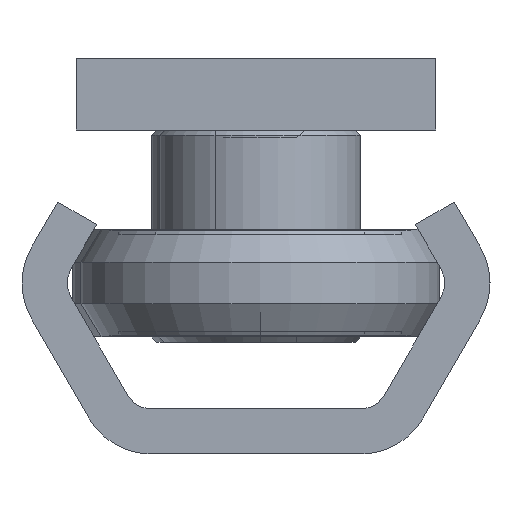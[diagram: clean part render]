
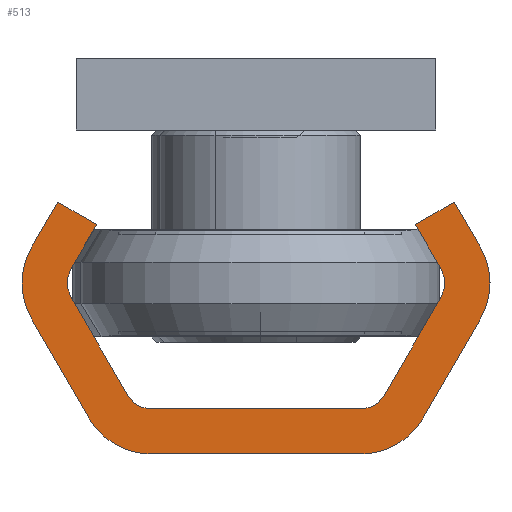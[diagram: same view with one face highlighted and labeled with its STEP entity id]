
A CAD part, left-side view. The second image highlights one B-rep face of the part: STEP entity #513.
In plain terms, the highlighted planar face has unit normal (-1, 0, 0).
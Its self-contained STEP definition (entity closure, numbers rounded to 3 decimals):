
#513 = ADVANCED_FACE( '', ( #1094 ), #1095, .F. );
#1094 = FACE_OUTER_BOUND( '', #1848, .T. );
#1095 = PLANE( '', #1849 );
#1848 = EDGE_LOOP( '', ( #3004, #3005, #3006, #3007, #3008, #3009, #3010, #3011, #3012, #3013, #3014, #3015, #3016, #3017, #3018, #3019, #3020, #3021, #3022, #3023 ) );
#1849 = AXIS2_PLACEMENT_3D( '', #3024, #3025, #3026 );
#3004 = ORIENTED_EDGE( '', *, *, #3739, .F. );
#3005 = ORIENTED_EDGE( '', *, *, #3685, .F. );
#3006 = ORIENTED_EDGE( '', *, *, #3641, .F. );
#3007 = ORIENTED_EDGE( '', *, *, #3865, .F. );
#3008 = ORIENTED_EDGE( '', *, *, #3610, .F. );
#3009 = ORIENTED_EDGE( '', *, *, #3605, .F. );
#3010 = ORIENTED_EDGE( '', *, *, #3934, .F. );
#3011 = ORIENTED_EDGE( '', *, *, #3935, .T. );
#3012 = ORIENTED_EDGE( '', *, *, #3936, .F. );
#3013 = ORIENTED_EDGE( '', *, *, #3833, .T. );
#3014 = ORIENTED_EDGE( '', *, *, #3937, .F. );
#3015 = ORIENTED_EDGE( '', *, *, #3791, .T. );
#3016 = ORIENTED_EDGE( '', *, *, #3938, .F. );
#3017 = ORIENTED_EDGE( '', *, *, #3819, .T. );
#3018 = ORIENTED_EDGE( '', *, *, #3883, .F. );
#3019 = ORIENTED_EDGE( '', *, *, #3939, .F. );
#3020 = ORIENTED_EDGE( '', *, *, #3940, .F. );
#3021 = ORIENTED_EDGE( '', *, *, #3743, .F. );
#3022 = ORIENTED_EDGE( '', *, *, #3941, .F. );
#3023 = ORIENTED_EDGE( '', *, *, #3908, .F. );
#3024 = CARTESIAN_POINT( '', ( 0., -5.825, -4. ) );
#3025 = DIRECTION( '', ( 1., 0., 0. ) );
#3026 = DIRECTION( '', ( 0., 0., -1. ) );
#3605 = EDGE_CURVE( '', #4099, #4100, #4101, .T. );
#3610 = EDGE_CURVE( '', #4100, #4108, #4109, .T. );
#3641 = EDGE_CURVE( '', #4160, #4161, #4162, .T. );
#3685 = EDGE_CURVE( '', #4161, #4238, #4239, .T. );
#3739 = EDGE_CURVE( '', #4238, #4333, #4334, .T. );
#3743 = EDGE_CURVE( '', #4339, #4340, #4341, .T. );
#3791 = EDGE_CURVE( '', #4413, #4414, #4415, .T. );
#3819 = EDGE_CURVE( '', #4457, #4458, #4459, .T. );
#3833 = EDGE_CURVE( '', #4479, #4480, #4481, .T. );
#3865 = EDGE_CURVE( '', #4108, #4160, #4528, .T. );
#3883 = EDGE_CURVE( '', #4553, #4458, #4554, .T. );
#3908 = EDGE_CURVE( '', #4333, #4590, #4591, .T. );
#3934 = EDGE_CURVE( '', #4624, #4099, #4625, .T. );
#3935 = EDGE_CURVE( '', #4624, #4626, #4627, .T. );
#3936 = EDGE_CURVE( '', #4479, #4626, #4628, .T. );
#3937 = EDGE_CURVE( '', #4413, #4480, #4629, .T. );
#3938 = EDGE_CURVE( '', #4457, #4414, #4630, .T. );
#3939 = EDGE_CURVE( '', #4631, #4553, #4632, .T. );
#3940 = EDGE_CURVE( '', #4340, #4631, #4633, .T. );
#3941 = EDGE_CURVE( '', #4590, #4339, #4634, .T. );
#4099 = VERTEX_POINT( '', #4826 );
#4100 = VERTEX_POINT( '', #4827 );
#4101 = LINE( '', #4828, #4829 );
#4108 = VERTEX_POINT( '', #4839 );
#4109 = LINE( '', #4840, #4841 );
#4160 = VERTEX_POINT( '', #4901 );
#4161 = VERTEX_POINT( '', #4902 );
#4162 = LINE( '', #4903, #4904 );
#4238 = VERTEX_POINT( '', #5001 );
#4239 = CIRCLE( '', #5002, 4. );
#4333 = VERTEX_POINT( '', #5104 );
#4334 = LINE( '', #5105, #5106 );
#4339 = VERTEX_POINT( '', #5113 );
#4340 = VERTEX_POINT( '', #5114 );
#4341 = CIRCLE( '', #5115, 4. );
#4413 = VERTEX_POINT( '', #5201 );
#4414 = VERTEX_POINT( '', #5202 );
#4415 = CIRCLE( '', #5203, 1.5 );
#4457 = VERTEX_POINT( '', #5249 );
#4458 = VERTEX_POINT( '', #5250 );
#4459 = CIRCLE( '', #5251, 1.5 );
#4479 = VERTEX_POINT( '', #5274 );
#4480 = VERTEX_POINT( '', #5275 );
#4481 = CIRCLE( '', #5276, 1.5 );
#4528 = CIRCLE( '', #5331, 4. );
#4553 = VERTEX_POINT( '', #5357 );
#4554 = LINE( '', #5358, #5359 );
#4590 = VERTEX_POINT( '', #5404 );
#4591 = CIRCLE( '', #5405, 4. );
#4624 = VERTEX_POINT( '', #5448 );
#4625 = LINE( '', #5449, #5450 );
#4626 = VERTEX_POINT( '', #5451 );
#4627 = CIRCLE( '', #5452, 1.5 );
#4628 = LINE( '', #5453, #5454 );
#4629 = LINE( '', #5455, #5456 );
#4630 = LINE( '', #5457, #5458 );
#4631 = VERTEX_POINT( '', #5459 );
#4632 = LINE( '', #5460, #5461 );
#4633 = LINE( '', #5462, #5463 );
#4634 = LINE( '', #5464, #5465 );
#4826 = CARTESIAN_POINT( '', ( 0., 8.856, -12.75 ) );
#4827 = CARTESIAN_POINT( '', ( 0., 11.021, -14. ) );
#4828 = CARTESIAN_POINT( '', ( 0., 8.856, -12.75 ) );
#4829 = VECTOR( '', #5683, 1000. );
#4839 = CARTESIAN_POINT( '', ( 0., 12.464, -11.5 ) );
#4840 = CARTESIAN_POINT( '', ( 0., 11.021, -14. ) );
#4841 = VECTOR( '', #5687, 1000. );
#4901 = CARTESIAN_POINT( '', ( 0., 12.464, -7.5 ) );
#4902 = CARTESIAN_POINT( '', ( 0., 9.289, -2. ) );
#4903 = CARTESIAN_POINT( '', ( 0., 12.464, -7.5 ) );
#4904 = VECTOR( '', #5736, 1000. );
#5001 = CARTESIAN_POINT( '', ( 0., 5.825, 0. ) );
#5002 = AXIS2_PLACEMENT_3D( '', #5794, #5795, #5796 );
#5104 = CARTESIAN_POINT( '', ( 0., -5.825, 0. ) );
#5105 = CARTESIAN_POINT( '', ( 0., 5.825, 0. ) );
#5106 = VECTOR( '', #5904, 1000. );
#5113 = CARTESIAN_POINT( '', ( 0., -12.464, -7.5 ) );
#5114 = CARTESIAN_POINT( '', ( 0., -12.464, -11.5 ) );
#5115 = AXIS2_PLACEMENT_3D( '', #5907, #5908, #5909 );
#5201 = CARTESIAN_POINT( '', ( 0., -5.825, -2.5 ) );
#5202 = CARTESIAN_POINT( '', ( 0., -7.124, -3.25 ) );
#5203 = AXIS2_PLACEMENT_3D( '', #5975, #5976, #5977 );
#5249 = CARTESIAN_POINT( '', ( 0., -10.299, -8.75 ) );
#5250 = CARTESIAN_POINT( '', ( 0., -10.299, -10.25 ) );
#5251 = AXIS2_PLACEMENT_3D( '', #6030, #6031, #6032 );
#5274 = CARTESIAN_POINT( '', ( 0., 7.124, -3.25 ) );
#5275 = CARTESIAN_POINT( '', ( 0., 5.825, -2.5 ) );
#5276 = AXIS2_PLACEMENT_3D( '', #6051, #6052, #6053 );
#5331 = AXIS2_PLACEMENT_3D( '', #6116, #6117, #6118 );
#5357 = CARTESIAN_POINT( '', ( 0., -8.856, -12.75 ) );
#5358 = CARTESIAN_POINT( '', ( 0., -8.856, -12.75 ) );
#5359 = VECTOR( '', #6144, 1000. );
#5404 = CARTESIAN_POINT( '', ( 0., -9.289, -2. ) );
#5405 = AXIS2_PLACEMENT_3D( '', #6172, #6173, #6174 );
#5448 = CARTESIAN_POINT( '', ( 0., 10.299, -10.25 ) );
#5449 = CARTESIAN_POINT( '', ( 0., 10.299, -10.25 ) );
#5450 = VECTOR( '', #6197, 1000. );
#5451 = CARTESIAN_POINT( '', ( 0., 10.299, -8.75 ) );
#5452 = AXIS2_PLACEMENT_3D( '', #6198, #6199, #6200 );
#5453 = CARTESIAN_POINT( '', ( 0., 7.124, -3.25 ) );
#5454 = VECTOR( '', #6201, 1000. );
#5455 = CARTESIAN_POINT( '', ( 0., -5.825, -2.5 ) );
#5456 = VECTOR( '', #6202, 1000. );
#5457 = CARTESIAN_POINT( '', ( 0., -10.299, -8.75 ) );
#5458 = VECTOR( '', #6203, 1000. );
#5459 = CARTESIAN_POINT( '', ( 0., -11.021, -14. ) );
#5460 = CARTESIAN_POINT( '', ( 0., -11.021, -14. ) );
#5461 = VECTOR( '', #6204, 1000. );
#5462 = CARTESIAN_POINT( '', ( 0., -12.464, -11.5 ) );
#5463 = VECTOR( '', #6205, 1000. );
#5464 = CARTESIAN_POINT( '', ( 0., -9.289, -2. ) );
#5465 = VECTOR( '', #6206, 1000. );
#5683 = DIRECTION( '', ( 0., 0.866, -0.5 ) );
#5687 = DIRECTION( '', ( 0., 0.5, 0.866 ) );
#5736 = DIRECTION( '', ( 0., -0.5, 0.866 ) );
#5794 = CARTESIAN_POINT( '', ( 0., 5.825, -4. ) );
#5795 = DIRECTION( '', ( 1., 0., 0. ) );
#5796 = DIRECTION( '', ( 0., 0., -1. ) );
#5904 = DIRECTION( '', ( 0., -1., 0. ) );
#5907 = CARTESIAN_POINT( '', ( 0., -9., -9.5 ) );
#5908 = DIRECTION( '', ( 1., 0., 0. ) );
#5909 = DIRECTION( '', ( 0., 0., -1. ) );
#5975 = CARTESIAN_POINT( '', ( 0., -5.825, -4. ) );
#5976 = DIRECTION( '', ( 1., 0., 0. ) );
#5977 = DIRECTION( '', ( 0., 0., -1. ) );
#6030 = CARTESIAN_POINT( '', ( 0., -9., -9.5 ) );
#6031 = DIRECTION( '', ( 1., 0., 0. ) );
#6032 = DIRECTION( '', ( 0., 0., -1. ) );
#6051 = CARTESIAN_POINT( '', ( 0., 5.825, -4. ) );
#6052 = DIRECTION( '', ( 1., 0., 0. ) );
#6053 = DIRECTION( '', ( 0., 0., -1. ) );
#6116 = CARTESIAN_POINT( '', ( 0., 9., -9.5 ) );
#6117 = DIRECTION( '', ( 1., 0., 0. ) );
#6118 = DIRECTION( '', ( 0., 0., -1. ) );
#6144 = DIRECTION( '', ( 0., -0.5, 0.866 ) );
#6172 = CARTESIAN_POINT( '', ( 0., -5.825, -4. ) );
#6173 = DIRECTION( '', ( 1., 0., 0. ) );
#6174 = DIRECTION( '', ( 0., 0., -1. ) );
#6197 = DIRECTION( '', ( 0., -0.5, -0.866 ) );
#6198 = CARTESIAN_POINT( '', ( 0., 9., -9.5 ) );
#6199 = DIRECTION( '', ( 1., 0., 0. ) );
#6200 = DIRECTION( '', ( 0., 0., -1. ) );
#6201 = DIRECTION( '', ( 0., 0.5, -0.866 ) );
#6202 = DIRECTION( '', ( 0., 1., 0. ) );
#6203 = DIRECTION( '', ( 0., 0.5, 0.866 ) );
#6204 = DIRECTION( '', ( 0., 0.866, 0.5 ) );
#6205 = DIRECTION( '', ( 0., 0.5, -0.866 ) );
#6206 = DIRECTION( '', ( 0., -0.5, -0.866 ) );
